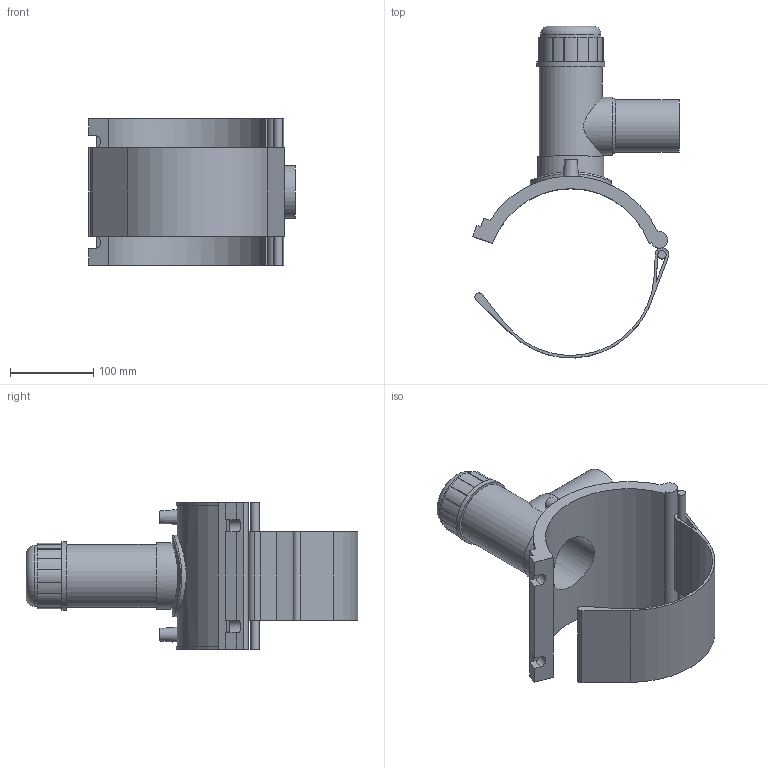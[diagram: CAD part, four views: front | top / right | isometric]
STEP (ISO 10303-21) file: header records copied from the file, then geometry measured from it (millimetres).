
FILE_DESCRIPTION(/* description */ ('PLASSON TAPPING TEE SADDLE 200mm x 63mm'),/* implementation_level */ '2;1');
FILE_NAME(/* name */ 'C:\Dropbox\KIMPROJECTS-Inventor 2019\99-16-3568-Processing\ElectroFusion Fittings\491304\491304200063.stp',/* time_stamp */ '2023-03-23T11:28:54+02:00',/* author */ ('KIM'),/* organization */ (''),/* preprocessor_version */ 'ST-DEVELOPER v17.2',/* originating_system */ 'Autodesk Inventor 2019',/* authorisation */ '');
FILE_SCHEMA (('AUTOMOTIVE_DESIGN { 1 0 10303 214 3 1 1 }'));
Length unit declared in the file: millimetre
Products named in the file (1): 491304200063
Bounding box: 247.46 x 397.85 x 176 mm (x, y, z)
Volume: 1297903.4 mm3; surface area: 312641.6 mm2
Topology: 2 solids, 2 shells, 108 faces, 282 edges, 193 vertices
Faces by surface type: plane 59, cylinder 44, cone 3, bspline 1, torus 1
Full cylindrical faces by diameter (mm): 4 x2, 10 x3, 50.4 x1, 63 x1, 69.3 x1, 69.6 x1, 72.45 x1, 75.6 x1, 79.6 x1, 81.9 x1, 97.65 x1
Entity records: 3960 total; most frequent: CARTESIAN_POINT 1153, DIRECTION 586, ORIENTED_EDGE 566, EDGE_CURVE 283, AXIS2_PLACEMENT_3D 212, VERTEX_POINT 195, LINE 162, VECTOR 162
